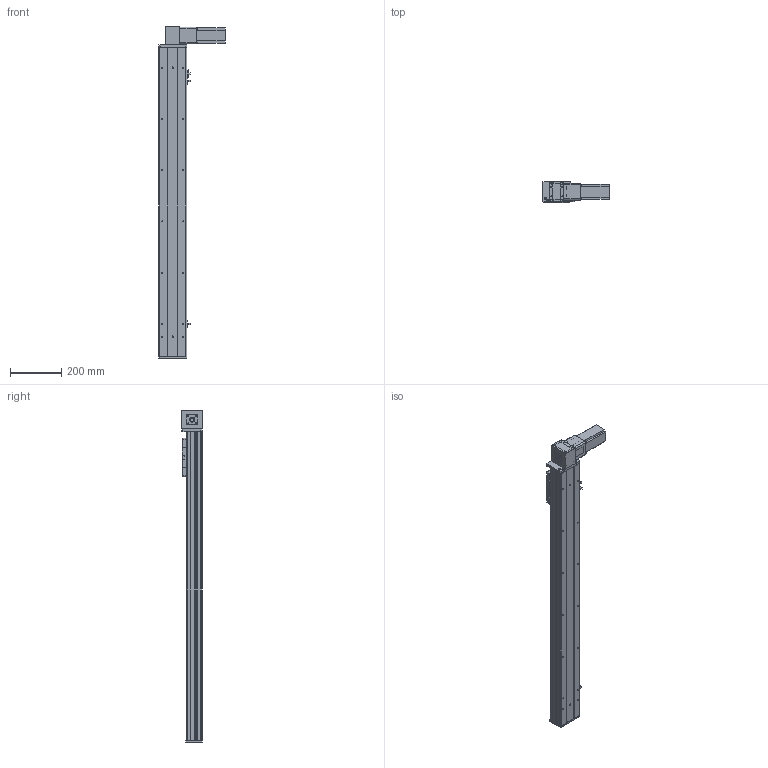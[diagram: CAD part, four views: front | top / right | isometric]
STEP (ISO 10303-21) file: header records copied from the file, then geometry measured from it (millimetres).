
FILE_DESCRIPTION (( 'STEP AP203' ), '1' );
FILE_NAME ('Y10CB-D90-S950-BD-P400W.STEP', '2020-02-17T02:33:07', ( '微软用户' ), ( '微软中国' ), 'SwSTEP 2.0', 'SolidWorks 2017', '' );
FILE_SCHEMA (( 'CONFIG_CONTROL_DESIGN' ));
Length unit declared in the file: millimetre
Products named in the file (16): Y10B--々湍喘謫眊--666; 0B-埴倛裔啣; 0B-薊粣ん眊; 10CB-詩湍-; Y10CB-D90-S950-BD-P400W; Y10CB- 掛极耜裔啣-毀---; Y10C---詩湍揤啣; 0CB-雄赽釱---; 10CB9-掛极; 0Cb-俋欶---; 10CB-耜裔; Y10B-々湍喘謫眊楊擘啣--; Y135C-陔俋离換覜結え-; san松下电机400不带刹车----; Y100-135俋离換覜ん--; 0B-源倛裔啣
Assembly tree (19 placements, depth 2):
  Y10CB-D90-S950-BD-P400W
    0CB-雄赽釱---
    0Cb-俋欶---
    Y10B-々湍喘謫眊楊擘啣--
    san松下电机400不带刹车----
    0B-源倛裔啣
    0B-埴倛裔啣
    10CB-詩湍-
    Y10CB- 掛极耜裔啣-毀---  x2
    Y10C---詩湍揤啣  x2
    10CB9-掛极
    10CB-耜裔
    Y135C-陔俋离換覜結え-
    Y100-135俋离換覜ん--  x3
    Y10B--々湍喘謫眊--666
    0B-薊粣ん眊
Bounding box: 258 x 80.5 x 1296 mm (x, y, z)
Volume: 3048864.9 mm3; surface area: 1323890.6 mm2
Topology: 19 solids, 19 shells, 900 faces, 2382 edges, 1556 vertices
Faces by surface type: cylinder 440, plane 436, cone 24
Entity records: 27569 total; most frequent: CARTESIAN_POINT 4904, DIRECTION 4457, ORIENTED_EDGE 4234, EDGE_CURVE 2117, AXIS2_PLACEMENT_3D 1599, VERTEX_POINT 1382, LINE 1259, VECTOR 1259
